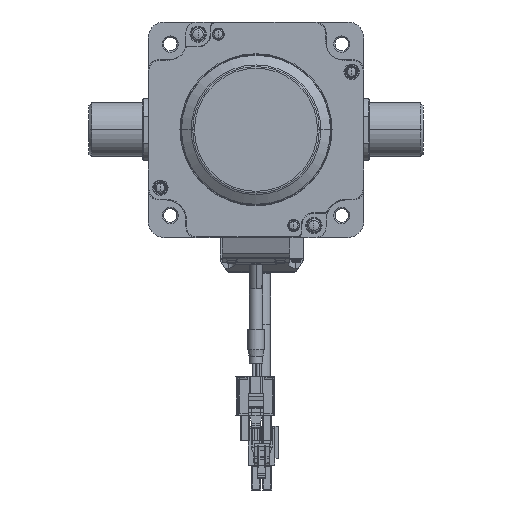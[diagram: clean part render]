
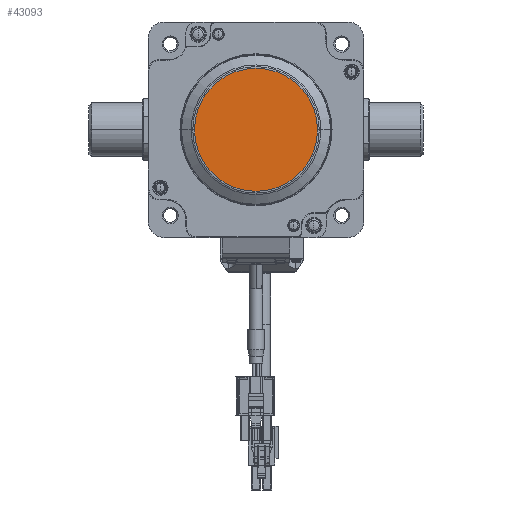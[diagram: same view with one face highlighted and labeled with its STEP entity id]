
A CAD part, front view. The second image highlights one B-rep face of the part: STEP entity #43093.
In plain terms, the highlighted planar face has unit normal (0, -1, 0) as drawn and (-1, 0, 0) by its records, which use the part's own axes.
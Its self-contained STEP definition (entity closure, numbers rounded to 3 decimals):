
#36074=CARTESIAN_POINT('',(-91.9,0.,0.));
#36075=DIRECTION('',(-1.,0.,0.));
#36076=DIRECTION('',(0.,0.,-1.));
#36077=AXIS2_PLACEMENT_3D('',#36074,#36075,#36076);
#36079=CARTESIAN_POINT('',(-91.9,0.,0.));
#36080=DIRECTION('',(-1.,0.,0.));
#36081=DIRECTION('',(0.,0.,1.));
#36082=AXIS2_PLACEMENT_3D('',#36079,#36080,#36081);
#37906=CARTESIAN_POINT('',(-91.9,0.,-22.84));
#37908=VERTEX_POINT('',#37906);
#37912=CARTESIAN_POINT('',(-91.9,0.,22.84));
#37913=VERTEX_POINT('',#37912);
#43083=CARTESIAN_POINT('',(-91.9,-22.,36.));
#43084=DIRECTION('',(1.,0.,0.));
#43085=DIRECTION('',(0.,0.,-1.));
#43086=AXIS2_PLACEMENT_3D('',#43083,#43084,#43085);
#43087=PLANE('',#43086);
#43088=ORIENTED_EDGE('',*,*,#43073,.F.);
#43090=ORIENTED_EDGE('',*,*,#43089,.F.);
#43091=EDGE_LOOP('',(#43088,#43090));
#43092=FACE_OUTER_BOUND('',#43091,.F.);
#43093=ADVANCED_FACE('',(#43092),#43087,.F.);
#36078=CIRCLE('',#36077,22.84);
#36083=CIRCLE('',#36082,22.84);
#43073=EDGE_CURVE('',#37908,#37913,#36078,.T.);
#43089=EDGE_CURVE('',#37913,#37908,#36083,.T.);
